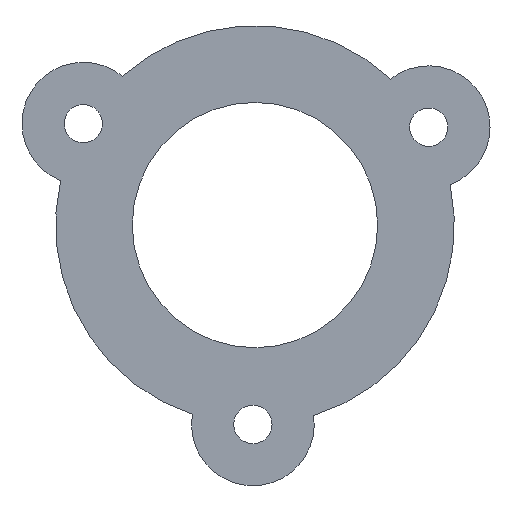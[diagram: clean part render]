
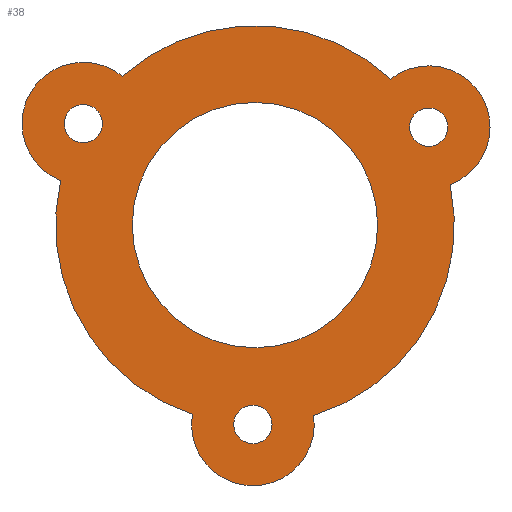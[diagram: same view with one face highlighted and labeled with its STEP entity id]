
A CAD part, front view. The second image highlights one B-rep face of the part: STEP entity #38.
In plain terms, the highlighted planar face has unit normal (0, -1, 0).
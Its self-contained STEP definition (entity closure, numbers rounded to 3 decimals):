
#38 = ADVANCED_FACE( '', ( #81, #82, #83, #84, #85 ), #86, .F. );
#81 = FACE_BOUND( '', #136, .T. );
#82 = FACE_BOUND( '', #137, .T. );
#83 = FACE_BOUND( '', #138, .T. );
#84 = FACE_BOUND( '', #139, .T. );
#85 = FACE_OUTER_BOUND( '', #140, .T. );
#86 = PLANE( '', #141 );
#136 = EDGE_LOOP( '', ( #187 ) );
#137 = EDGE_LOOP( '', ( #188 ) );
#138 = EDGE_LOOP( '', ( #189 ) );
#139 = EDGE_LOOP( '', ( #190 ) );
#140 = EDGE_LOOP( '', ( #191, #192, #193, #194, #195, #196 ) );
#141 = AXIS2_PLACEMENT_3D( '', #197, #198, #199 );
#187 = ORIENTED_EDGE( '', *, *, #284, .T. );
#188 = ORIENTED_EDGE( '', *, *, #285, .T. );
#189 = ORIENTED_EDGE( '', *, *, #286, .T. );
#190 = ORIENTED_EDGE( '', *, *, #282, .T. );
#191 = ORIENTED_EDGE( '', *, *, #287, .F. );
#192 = ORIENTED_EDGE( '', *, *, #288, .F. );
#193 = ORIENTED_EDGE( '', *, *, #289, .F. );
#194 = ORIENTED_EDGE( '', *, *, #290, .F. );
#195 = ORIENTED_EDGE( '', *, *, #291, .F. );
#196 = ORIENTED_EDGE( '', *, *, #292, .F. );
#197 = CARTESIAN_POINT( '', ( -100.91, 0., 1907.782 ) );
#198 = DIRECTION( '', ( 0., 1., 0. ) );
#199 = DIRECTION( '', ( 0., 0., 1. ) );
#282 = EDGE_CURVE( '', #321, #321, #322, .T. );
#284 = EDGE_CURVE( '', #324, #324, #325, .T. );
#285 = EDGE_CURVE( '', #326, #326, #327, .T. );
#286 = EDGE_CURVE( '', #328, #328, #329, .T. );
#287 = EDGE_CURVE( '', #330, #331, #332, .T. );
#288 = EDGE_CURVE( '', #333, #330, #334, .T. );
#289 = EDGE_CURVE( '', #335, #333, #336, .T. );
#290 = EDGE_CURVE( '', #337, #335, #338, .T. );
#291 = EDGE_CURVE( '', #339, #337, #340, .T. );
#292 = EDGE_CURVE( '', #331, #339, #341, .T. );
#321 = VERTEX_POINT( '', #379 );
#322 = CIRCLE( '', #380, 2.5 );
#324 = VERTEX_POINT( '', #382 );
#325 = CIRCLE( '', #383, 16. );
#326 = VERTEX_POINT( '', #384 );
#327 = CIRCLE( '', #385, 2.5 );
#328 = VERTEX_POINT( '', #386 );
#329 = CIRCLE( '', #387, 2.5 );
#330 = VERTEX_POINT( '', #388 );
#331 = VERTEX_POINT( '', #389 );
#332 = CIRCLE( '', #390, 8. );
#333 = VERTEX_POINT( '', #391 );
#334 = CIRCLE( '', #392, 26. );
#335 = VERTEX_POINT( '', #393 );
#336 = CIRCLE( '', #394, 8. );
#337 = VERTEX_POINT( '', #395 );
#338 = CIRCLE( '', #396, 26. );
#339 = VERTEX_POINT( '', #397 );
#340 = CIRCLE( '', #398, 8. );
#341 = CIRCLE( '', #399, 26. );
#379 = CARTESIAN_POINT( '', ( -64.57, 0., 1913.934 ) );
#380 = AXIS2_PLACEMENT_3D( '', #443, #444, #445 );
#382 = CARTESIAN_POINT( '', ( -73.719, 0., 1901.167 ) );
#383 = AXIS2_PLACEMENT_3D( '', #446, #447, #448 );
#384 = CARTESIAN_POINT( '', ( -87.487, 0., 1875.168 ) );
#385 = AXIS2_PLACEMENT_3D( '', #449, #450, #451 );
#386 = CARTESIAN_POINT( '', ( -109.601, 0., 1914.398 ) );
#387 = AXIS2_PLACEMENT_3D( '', #452, #453, #454 );
#388 = CARTESIAN_POINT( '', ( -115.064, 0., 1906.967 ) );
#389 = CARTESIAN_POINT( '', ( -107.019, 0., 1920.576 ) );
#390 = AXIS2_PLACEMENT_3D( '', #455, #456, #457 );
#391 = CARTESIAN_POINT( '', ( -97.879, 0., 1876.48 ) );
#392 = AXIS2_PLACEMENT_3D( '', #458, #459, #460 );
#393 = CARTESIAN_POINT( '', ( -82.07, 0., 1876.317 ) );
#394 = AXIS2_PLACEMENT_3D( '', #461, #462, #463 );
#395 = CARTESIAN_POINT( '', ( -64.26, 0., 1906.444 ) );
#396 = AXIS2_PLACEMENT_3D( '', #464, #465, #466 );
#397 = CARTESIAN_POINT( '', ( -72.024, 0., 1920.216 ) );
#398 = AXIS2_PLACEMENT_3D( '', #467, #468, #469 );
#399 = AXIS2_PLACEMENT_3D( '', #470, #471, #472 );
#443 = CARTESIAN_POINT( '', ( -67.07, 0., 1913.934 ) );
#444 = DIRECTION( '', ( 0., 1., 0. ) );
#445 = DIRECTION( '', ( 1., 0., 0. ) );
#446 = CARTESIAN_POINT( '', ( -89.719, 0., 1901.167 ) );
#447 = DIRECTION( '', ( 0., 1., 0. ) );
#448 = DIRECTION( '', ( 1., 0., 0. ) );
#449 = CARTESIAN_POINT( '', ( -89.987, 0., 1875.168 ) );
#450 = DIRECTION( '', ( 0., 1., 0. ) );
#451 = DIRECTION( '', ( 1., 0., 0. ) );
#452 = CARTESIAN_POINT( '', ( -112.101, 0., 1914.398 ) );
#453 = DIRECTION( '', ( 0., 1., 0. ) );
#454 = DIRECTION( '', ( 1., 0., 0. ) );
#455 = CARTESIAN_POINT( '', ( -112.101, 0., 1914.398 ) );
#456 = DIRECTION( '', ( 0., 1., 0. ) );
#457 = DIRECTION( '', ( 1., 0., 0. ) );
#458 = CARTESIAN_POINT( '', ( -89.719, 0., 1901.167 ) );
#459 = DIRECTION( '', ( 0., 1., 0. ) );
#460 = DIRECTION( '', ( 1., 0., 0. ) );
#461 = CARTESIAN_POINT( '', ( -89.987, 0., 1875.168 ) );
#462 = DIRECTION( '', ( 0., 1., 0. ) );
#463 = DIRECTION( '', ( 0., 0., 1. ) );
#464 = CARTESIAN_POINT( '', ( -89.719, 0., 1901.167 ) );
#465 = DIRECTION( '', ( 0., 1., 0. ) );
#466 = DIRECTION( '', ( -1., 0., 0. ) );
#467 = CARTESIAN_POINT( '', ( -67.07, 0., 1913.934 ) );
#468 = DIRECTION( '', ( 0., 1., 0. ) );
#469 = DIRECTION( '', ( -1., 0., 0. ) );
#470 = CARTESIAN_POINT( '', ( -89.719, 0., 1901.167 ) );
#471 = DIRECTION( '', ( 0., 1., 0. ) );
#472 = DIRECTION( '', ( 1., 0., 0. ) );
